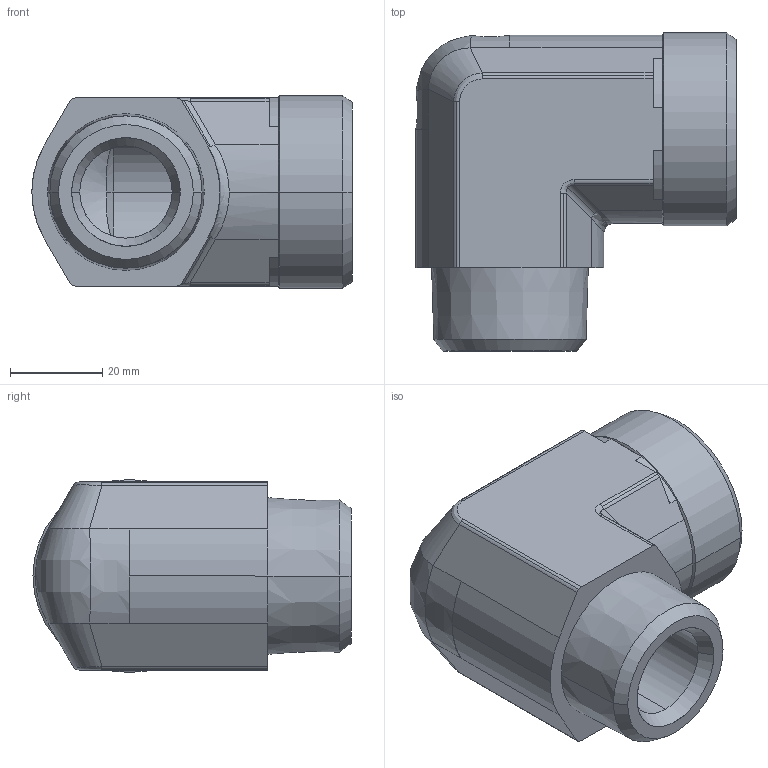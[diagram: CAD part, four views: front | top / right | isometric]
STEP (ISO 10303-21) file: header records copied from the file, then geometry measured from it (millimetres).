
FILE_DESCRIPTION((''),'2;1');
FILE_NAME('102040.stp','2007-10-30T16:37:36',(''),(''),'AutoCAD STEP 2000i','AutoCAD 2000i',', , ');
FILE_SCHEMA(('CONFIG_CONTROL_DESIGN'));
Length unit declared in the file: millimetre
Products named in the file (2): 102040.0; 3090#0
Assembly tree (1 placements, depth 2):
  102040.0
    3090#0
Bounding box: 69.38 x 68.91 x 41.82 mm (x, y, z)
Volume: 81541.1 mm3; surface area: 20989.9 mm2
Topology: 1 solids, 1 shells, 95 faces, 234 edges, 143 vertices
Faces by surface type: cylinder 40, plane 26, cone 15, bspline 14
Entity records: 3837 total; most frequent: CARTESIAN_POINT 1475, DIRECTION 494, ORIENTED_EDGE 468, EDGE_CURVE 234, AXIS2_PLACEMENT_3D 198, VERTEX_POINT 143, CIRCLE 105, EDGE_LOOP 99
